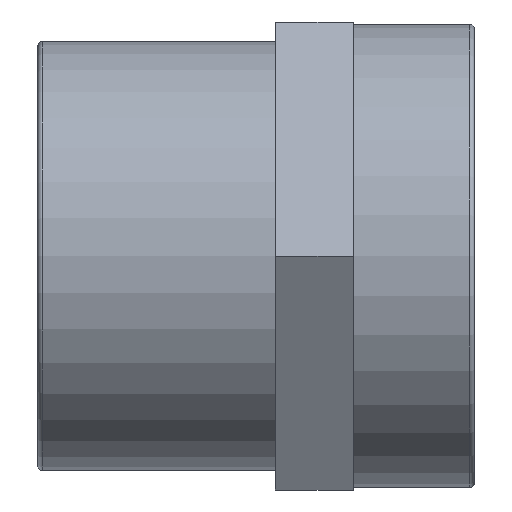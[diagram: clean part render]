
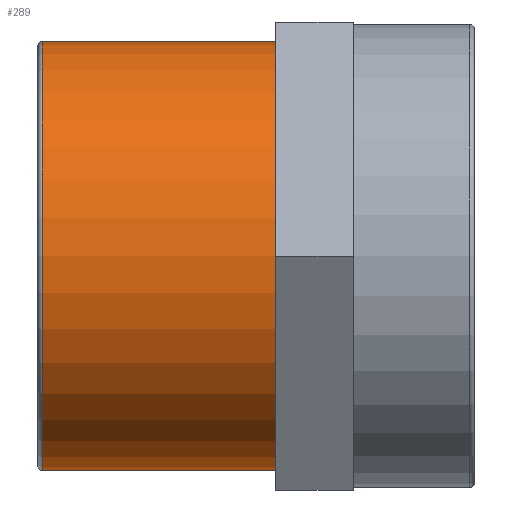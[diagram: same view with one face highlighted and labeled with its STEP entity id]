
A CAD part, top view. The second image highlights one B-rep face of the part: STEP entity #289.
In plain terms, the highlighted cylindrical face has radius 55 mm (diameter 110 mm), a full revolution.
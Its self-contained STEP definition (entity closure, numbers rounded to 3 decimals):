
#54=CYLINDRICAL_SURFACE('',#323,55.);
#77=FACE_BOUND('',#123,.T.);
#92=FACE_OUTER_BOUND('',#122,.T.);
#122=EDGE_LOOP('',(#230));
#123=EDGE_LOOP('',(#231));
#150=CIRCLE('',#322,55.);
#151=CIRCLE('',#324,55.);
#164=VERTEX_POINT('',#458);
#165=VERTEX_POINT('',#461);
#190=EDGE_CURVE('',#164,#164,#150,.T.);
#191=EDGE_CURVE('',#165,#165,#151,.T.);
#230=ORIENTED_EDGE('',*,*,#191,.T.);
#231=ORIENTED_EDGE('',*,*,#190,.F.);
#289=ADVANCED_FACE('',(#92,#77),#54,.T.);
#322=AXIS2_PLACEMENT_3D('',#459,#378,#379);
#323=AXIS2_PLACEMENT_3D('',#460,#380,#381);
#324=AXIS2_PLACEMENT_3D('',#462,#382,#383);
#378=DIRECTION('center_axis',(-1.,0.,0.));
#379=DIRECTION('ref_axis',(0.,1.,0.));
#380=DIRECTION('center_axis',(-1.,0.,0.));
#381=DIRECTION('ref_axis',(0.,-1.,0.));
#382=DIRECTION('center_axis',(-1.,0.,0.));
#383=DIRECTION('ref_axis',(0.,0.,1.));
#458=CARTESIAN_POINT('',(-54.9,-55.,0.));
#459=CARTESIAN_POINT('Origin',(-54.9,0.,0.));
#460=CARTESIAN_POINT('Origin',(-25.5,0.,0.));
#461=CARTESIAN_POINT('',(5.,-55.,0.));
#462=CARTESIAN_POINT('Origin',(5.,0.,0.));
